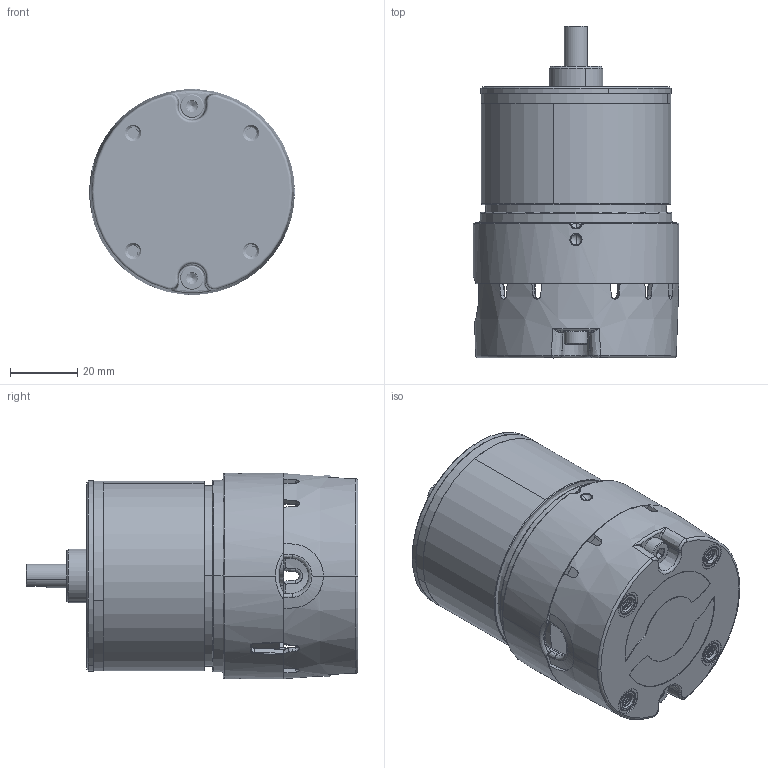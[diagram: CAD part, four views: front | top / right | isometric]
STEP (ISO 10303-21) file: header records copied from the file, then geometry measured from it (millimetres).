
FILE_DESCRIPTION (( 'STEP AP214' ), '1' );
FILE_NAME ('M500.STEP', '2024-10-01T20:22:11', ( '' ), ( '' ), 'SwSTEP 2.0', 'SolidWorks 2024', '' );
FILE_SCHEMA (( 'AUTOMOTIVE_DESIGN' ));
Length unit declared in the file: millimetre
Products named in the file (15): T500-M-ARC-MAGNET-R1; T500-M-SHAFT-R1; M500-BASE-PLATE; M4x0.7-22-SS316-SOCKET-HEAD-CAP-SCREW_92290A771; T500-M-ROTOR-BASE-R1; M500-STATOR-BASE_Public; M4X0.7-14-SS316-KNURLED-THREADED-INSERT; T500-P-ROTOR-SPACER-R1; ADHESIVE-PROTAVIC-46507-50ML-SYRINGE; M500-ASM-STATOR-BASE_Public; T500-ASM-ROTOR-R1; FERRULE-CRIMP-10AWG; T500-M-FLUX-RING-R1; M500
Assembly tree (18 placements, depth 3):
  ADHESIVE-PROTAVIC-46507-50ML-SYRINGE
  FERRULE-CRIMP-10AWG
  M500
    T500-ASM-ROTOR-R1
      T500-M-FLUX-RING-R1
      T500-M-ROTOR-BASE-R1
      T500-M-SHAFT-R1
      T500-M-ARC-MAGNET-R1
      T500-P-ROTOR-SPACER-R1
    M500-ASM-STATOR-BASE_Public
      M500-STATOR-BASE_Public
      M4X0.7-14-SS316-KNURLED-THREADED-INSERT  x2
    M500-BASE-PLATE
      M500-BASE-PLATE
      M4X0.7-14-SS316-KNURLED-THREADED-INSERT  x4
    M4x0.7-22-SS316-SOCKET-HEAD-CAP-SCREW_92290A771  x2
Bounding box: 61 x 98.45 x 61 mm (x, y, z)
Volume: 186869.9 mm3; surface area: 66435.8 mm2
Topology: 15 solids, 15 shells, 2729 faces, 7379 edges, 4637 vertices
Faces by surface type: plane 913, cylinder 906, bspline 453, torus 226, cone 181, sphere 50
Entity records: 67071 total; most frequent: CARTESIAN_POINT 35949, ORIENTED_EDGE 7128, DIRECTION 5716, EDGE_CURVE 3564, AXIS2_PLACEMENT_3D 2412, VERTEX_POINT 2162, EDGE_LOOP 1508, FACE_OUTER_BOUND 1452
